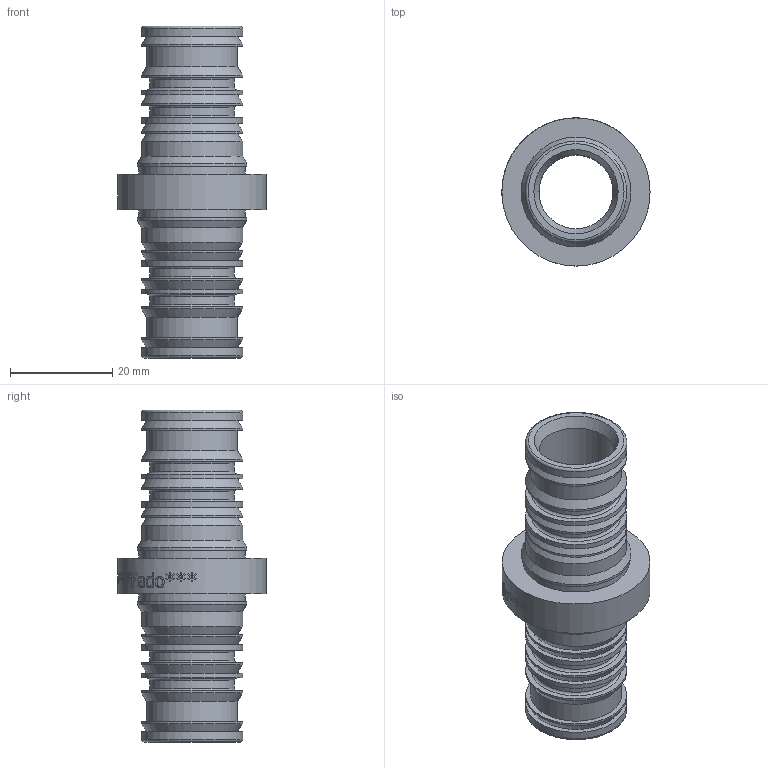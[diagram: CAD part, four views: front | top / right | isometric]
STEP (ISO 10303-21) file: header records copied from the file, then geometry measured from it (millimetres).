
FILE_DESCRIPTION(/* description */ (''),/* implementation_level */ '2;1');
FILE_NAME(/* name */ 'C:\Users\Doom\Desktop\Фадотех\Пресс\HDM06 26 Coupler 31.03.2020\HDM06 26 Coupler 31.03.2020_1.stp',/* time_stamp */ '2022-08-11T12:11:25+03:00',/* author */ ('Doom'),/* organization */ (''),/* preprocessor_version */ 'ST-DEVELOPER v18',/* originating_system */ 'Autodesk Inventor 2020',/* authorisation */ '');
FILE_SCHEMA (('AUTOMOTIVE_DESIGN { 1 0 10303 214 3 1 1 }'));
Length unit declared in the file: millimetre
Products named in the file (1): 16 Model 18.12.2019
Bounding box: 29.01 x 29.01 x 65 mm (x, y, z)
Volume: 10019.2 mm3; surface area: 9344.2 mm2
Topology: 1 solids, 1 shells, 332 faces, 928 edges, 638 vertices
Faces by surface type: bspline 184, plane 78, cylinder 46, cone 14, torus 10
Full cylindrical faces by diameter (mm): 14.5 x1, 16.6 x4, 17.8 x2, 19.8 x16, 20.8 x2, 21.5 x2, 29 x1
Entity records: 13814 total; most frequent: CARTESIAN_POINT 6183, ORIENTED_EDGE 1856, DIRECTION 1100, EDGE_CURVE 928, VERTEX_POINT 638, AXIS2_PLACEMENT_3D 391, EDGE_LOOP 374, B_SPLINE_CURVE_WITH_KNOTS 368
